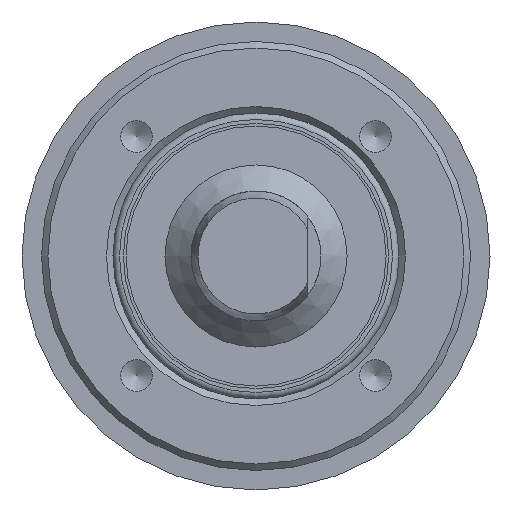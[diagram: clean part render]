
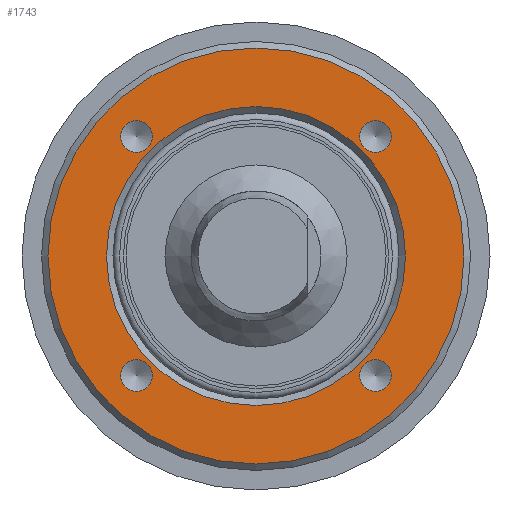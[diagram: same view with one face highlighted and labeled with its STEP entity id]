
A CAD part, left-side view. The second image highlights one B-rep face of the part: STEP entity #1743.
In plain terms, the highlighted planar face has unit normal (-1, 0, 0).
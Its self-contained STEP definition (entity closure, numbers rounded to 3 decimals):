
#1364=CARTESIAN_POINT('',(-21.0,11.5,0.));
#1365=VERTEX_POINT('',#1364);
#1366=CARTESIAN_POINT('',(-21.0,0.0,0.0));
#1367=DIRECTION('',(-1.0,0.0,0.0));
#1368=DIRECTION('',(0.0,-1.0,0.0));
#1369=AXIS2_PLACEMENT_3D('',#1366,#1367,#1368);
#1370=CIRCLE('',#1369,11.5);
#1371=EDGE_CURVE('',#1365,#1365,#1370,.T.);
#1402=CARTESIAN_POINT('',(-21.0,9.192,-7.963));
#1403=VERTEX_POINT('',#1402);
#1404=CARTESIAN_POINT('',(-21.0,9.192,-9.192));
#1405=DIRECTION('',(1.0,0.0,0.0));
#1406=DIRECTION('',(0.0,0.0,1.0));
#1407=AXIS2_PLACEMENT_3D('',#1404,#1405,#1406);
#1408=CIRCLE('',#1407,1.23);
#1409=EDGE_CURVE('',#1403,#1403,#1408,.T.);
#1481=CARTESIAN_POINT('',(-21.0,-7.963,-9.192));
#1482=VERTEX_POINT('',#1481);
#1483=CARTESIAN_POINT('',(-21.0,-9.192,-9.192));
#1484=DIRECTION('',(1.0,0.0,0.0));
#1485=DIRECTION('',(0.0,1.0,0.0));
#1486=AXIS2_PLACEMENT_3D('',#1483,#1484,#1485);
#1487=CIRCLE('',#1486,1.23);
#1488=EDGE_CURVE('',#1482,#1482,#1487,.T.);
#1560=CARTESIAN_POINT('',(-21.0,-9.192,7.963));
#1561=VERTEX_POINT('',#1560);
#1562=CARTESIAN_POINT('',(-21.0,-9.192,9.192));
#1563=DIRECTION('',(1.0,0.0,0.0));
#1564=DIRECTION('',(0.0,0.0,-1.0));
#1565=AXIS2_PLACEMENT_3D('',#1562,#1563,#1564);
#1566=CIRCLE('',#1565,1.23);
#1567=EDGE_CURVE('',#1561,#1561,#1566,.T.);
#1639=CARTESIAN_POINT('',(-21.0,7.963,9.192));
#1640=VERTEX_POINT('',#1639);
#1641=CARTESIAN_POINT('',(-21.0,9.192,9.192));
#1642=DIRECTION('',(1.0,0.0,0.0));
#1643=DIRECTION('',(0.0,-1.0,0.0));
#1644=AXIS2_PLACEMENT_3D('',#1641,#1642,#1643);
#1645=CIRCLE('',#1644,1.23);
#1646=EDGE_CURVE('',#1640,#1640,#1645,.T.);
#1712=CARTESIAN_POINT('',(-21.0,13.75,0.0));
#1713=DIRECTION('',(-1.0,0.0,0.0));
#1714=DIRECTION('',(0.0,0.0,1.0));
#1715=AXIS2_PLACEMENT_3D('',#1712,#1713,#1714);
#1716=PLANE('',#1715);
#1717=CARTESIAN_POINT('',(-21.0,16.0,0.));
#1718=VERTEX_POINT('',#1717);
#1719=CARTESIAN_POINT('',(-21.0,0.0,0.0));
#1720=DIRECTION('',(1.0,0.0,0.0));
#1721=DIRECTION('',(0.0,-1.0,0.0));
#1722=AXIS2_PLACEMENT_3D('',#1719,#1720,#1721);
#1723=CIRCLE('',#1722,16.0);
#1724=EDGE_CURVE('',#1718,#1718,#1723,.T.);
#1725=ORIENTED_EDGE('',*,*,#1724,.F.);
#1726=EDGE_LOOP('',(#1725));
#1727=FACE_OUTER_BOUND('',#1726,.T.);
#1728=ORIENTED_EDGE('',*,*,#1371,.F.);
#1729=EDGE_LOOP('',(#1728));
#1730=FACE_BOUND('',#1729,.T.);
#1731=ORIENTED_EDGE('',*,*,#1409,.T.);
#1732=EDGE_LOOP('',(#1731));
#1733=FACE_BOUND('',#1732,.T.);
#1734=ORIENTED_EDGE('',*,*,#1488,.T.);
#1735=EDGE_LOOP('',(#1734));
#1736=FACE_BOUND('',#1735,.T.);
#1737=ORIENTED_EDGE('',*,*,#1567,.T.);
#1738=EDGE_LOOP('',(#1737));
#1739=FACE_BOUND('',#1738,.T.);
#1740=ORIENTED_EDGE('',*,*,#1646,.T.);
#1741=EDGE_LOOP('',(#1740));
#1742=FACE_BOUND('',#1741,.T.);
#1743=ADVANCED_FACE('',(#1727,#1730,#1733,#1736,#1739,#1742),#1716,.T.);
